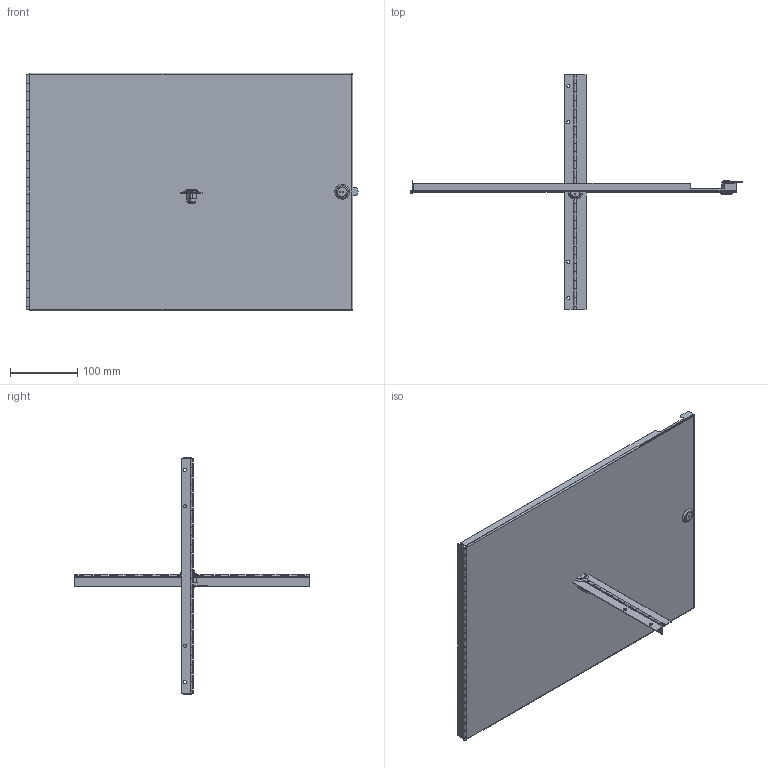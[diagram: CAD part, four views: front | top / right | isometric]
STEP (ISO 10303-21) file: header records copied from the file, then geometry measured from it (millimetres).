
FILE_DESCRIPTION( ( 'Unknown' ), '1' );
FILE_NAME( 'Q:/RCHS/WEB DRAWINGS/STEP/RCHD1914.stp', 'Unknown', ( 'Unknown' ), ( 'Unknown' ), 'XStep 1.0', 'Unknown', ' ' );
FILE_SCHEMA( ( 'CONFIG_CONTROL_DESIGN' ) );
Length unit declared in the file: millimetre
Products named in the file (7): Assem1; Assem2; Assem3; 1; 2; 3; 4
Bounding box: 492.23 x 347.68 x 352.43 mm (x, y, z)
Volume: 852226.4 mm3; surface area: 1217361.2 mm2
Topology: 13 solids, 13 shells, 978 faces, 2790 edges, 1848 vertices
Faces by surface type: plane 638, cylinder 326, bspline 12, cone 2
Full cylindrical faces by diameter (mm): 4.775 x16, 8.382 x2, 13.868 x2, 13.97 x2, 21.996 x2
Entity records: 9232 total; most frequent: CARTESIAN_POINT 1697, ORIENTED_EDGE 1520, DIRECTION 1488, EDGE_CURVE 760, LINE 574, VECTOR 574, VERTEX_POINT 506, AXIS2_PLACEMENT_3D 457
